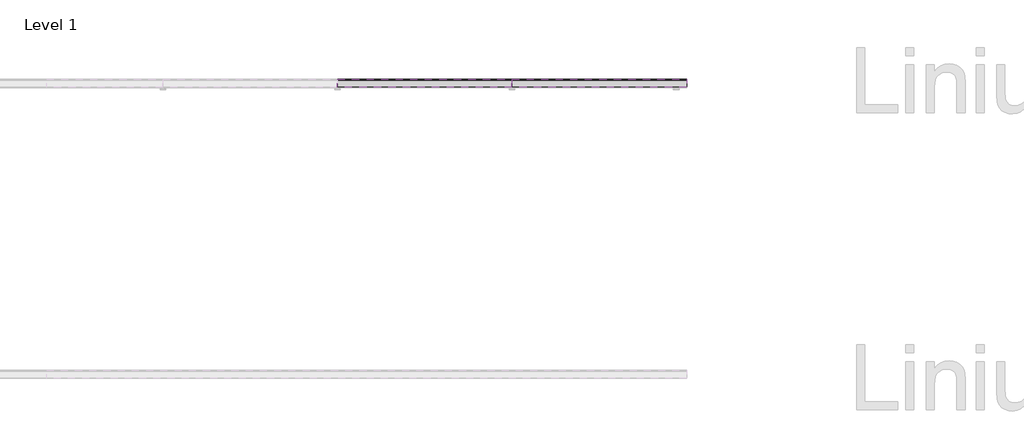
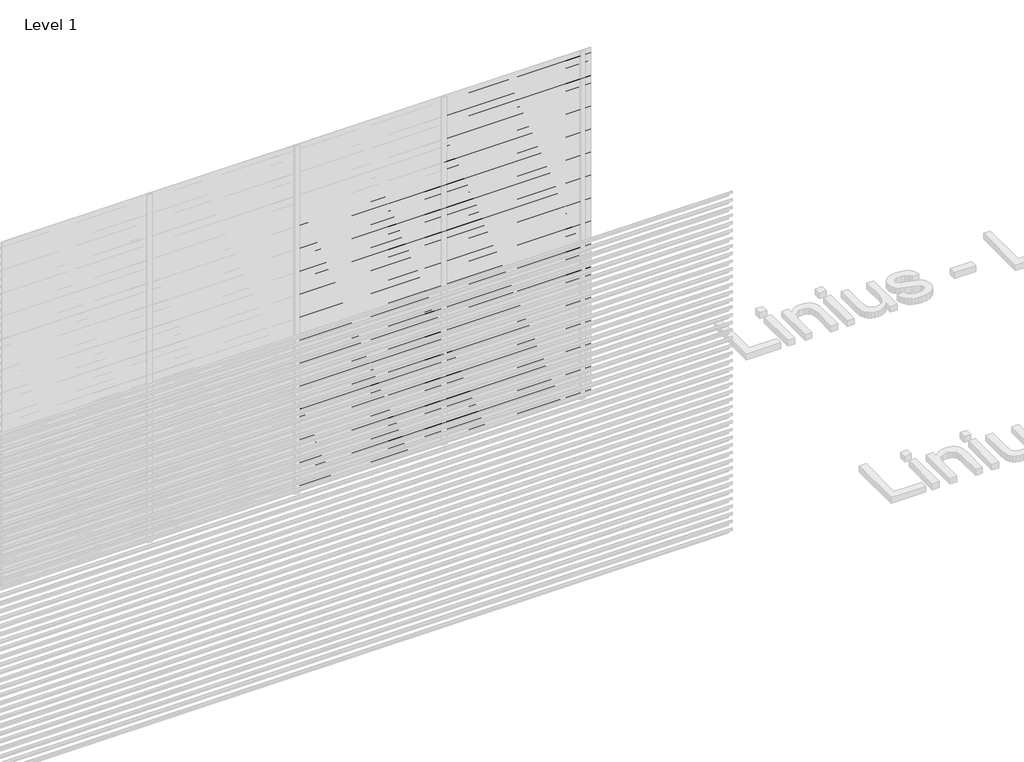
# One storey, part 75 of 540: 80 proxies.
"""IFC4 building model written with IfcOpenShell, lengths in millimetres."""

from ifc_helpers import new_model, si_unit, frame, origin, place, context, project, spatial, polyline, outline, extrude, element, save

model = new_model("IFC4")

# Units and contexts
model_context = context("Model", 3, world=origin())
ifc_project = project(units=[si_unit("LENGTHUNIT", "METRE", prefix="MILLI")], contexts=[model_context])

# Site, building, storey
site = spatial("IfcSite", under=ifc_project)
building = spatial("IfcBuilding", under=site)
storey = spatial("IfcBuildingStorey", under=building, Name="Level 1", Elevation=0.0)

# Proxies
placement = place(None, origin())
element("IfcBuildingElementProxy", 1, Name="Wall Sweeps", at=placement, inside=storey, context=model_context, shape_type="SweptSolid", body=[
    extrude(outline(polyline([(44081.0540136, 2913.5), (44081.0540136, 2893.5), (44079.8040136, 2894.2216933), (44079.8040136, 2912.7872415), (44026.0540136, 2950.3158044), (44026.0540136, 2970.0), (44027.3040136, 2970.0), (44027.3040136, 2951.0285629), (44081.0540136, 2913.5)])), frame((5266.6208095, 0.0, 0.0), z_axis=(1.0, 0.0, 0.0), x_axis=(0.0, 1.0, 0.0)), (0.0, 0.0, 1.0), 1200.0000002),
])
element("IfcBuildingElementProxy", 2, Name="Wall Sweeps", at=placement, inside=storey, context=model_context, shape_type="SweptSolid", body=[
    extrude(outline(polyline([(44081.0540136, 2847.5), (44081.0540136, 2827.5), (44079.8040136, 2828.2216933), (44079.8040136, 2846.7872415), (44026.0540136, 2884.3158044), (44026.0540136, 2904.0), (44027.3040136, 2904.0), (44027.3040136, 2885.0285629), (44081.0540136, 2847.5)])), frame((5266.6208095, 0.0, 0.0), z_axis=(1.0, 0.0, 0.0), x_axis=(0.0, 1.0, 0.0)), (0.0, 0.0, 1.0), 1200.0000002),
])
element("IfcBuildingElementProxy", 3, Name="Wall Sweeps", at=placement, inside=storey, context=model_context, shape_type="SweptSolid", body=[
    extrude(outline(polyline([(44081.0540136, 2781.5), (44081.0540136, 2761.5), (44079.8040136, 2762.2216933), (44079.8040136, 2780.7872415), (44026.0540136, 2818.3158044), (44026.0540136, 2838.0), (44027.3040136, 2838.0), (44027.3040136, 2819.0285629), (44081.0540136, 2781.5)])), frame((5266.6208095, 0.0, 0.0), z_axis=(1.0, 0.0, 0.0), x_axis=(0.0, 1.0, 0.0)), (0.0, 0.0, 1.0), 1200.0000002),
])
element("IfcBuildingElementProxy", 4, Name="Wall Sweeps", at=placement, inside=storey, context=model_context, shape_type="SweptSolid", body=[
    extrude(outline(polyline([(44081.0540136, 2715.5), (44081.0540136, 2695.5), (44079.8040136, 2696.2216933), (44079.8040136, 2714.7872415), (44026.0540136, 2752.3158044), (44026.0540136, 2772.0), (44027.3040136, 2772.0), (44027.3040136, 2753.0285629), (44081.0540136, 2715.5)])), frame((5266.6208095, 0.0, 0.0), z_axis=(1.0, 0.0, 0.0), x_axis=(0.0, 1.0, 0.0)), (0.0, 0.0, 1.0), 1200.0000002),
])
element("IfcBuildingElementProxy", 5, Name="Wall Sweeps", at=placement, inside=storey, context=model_context, shape_type="SweptSolid", body=[
    extrude(outline(polyline([(44081.0540136, 2649.5), (44081.0540136, 2629.5), (44079.8040136, 2630.2216933), (44079.8040136, 2648.7872415), (44026.0540136, 2686.3158044), (44026.0540136, 2706.0), (44027.3040136, 2706.0), (44027.3040136, 2687.0285629), (44081.0540136, 2649.5)])), frame((5266.6208095, 0.0, 0.0), z_axis=(1.0, 0.0, 0.0), x_axis=(0.0, 1.0, 0.0)), (0.0, 0.0, 1.0), 1200.0000002),
])
element("IfcBuildingElementProxy", 6, Name="Wall Sweeps", at=placement, inside=storey, context=model_context, shape_type="SweptSolid", body=[
    extrude(outline(polyline([(44081.0540136, 2583.5), (44081.0540136, 2563.5), (44079.8040136, 2564.2216933), (44079.8040136, 2582.7872415), (44026.0540136, 2620.3158044), (44026.0540136, 2640.0), (44027.3040136, 2640.0), (44027.3040136, 2621.0285629), (44081.0540136, 2583.5)])), frame((5266.6208095, 0.0, 0.0), z_axis=(1.0, 0.0, 0.0), x_axis=(0.0, 1.0, 0.0)), (0.0, 0.0, 1.0), 1200.0000002),
])
element("IfcBuildingElementProxy", 7, Name="Wall Sweeps", at=placement, inside=storey, context=model_context, shape_type="SweptSolid", body=[
    extrude(outline(polyline([(44081.0540136, 2517.5), (44081.0540136, 2497.5), (44079.8040136, 2498.2216933), (44079.8040136, 2516.7872415), (44026.0540136, 2554.3158044), (44026.0540136, 2574.0), (44027.3040136, 2574.0), (44027.3040136, 2555.0285629), (44081.0540136, 2517.5)])), frame((5266.6208095, 0.0, 0.0), z_axis=(1.0, 0.0, 0.0), x_axis=(0.0, 1.0, 0.0)), (0.0, 0.0, 1.0), 1200.0000002),
])
element("IfcBuildingElementProxy", 8, Name="Wall Sweeps", at=placement, inside=storey, context=model_context, shape_type="SweptSolid", body=[
    extrude(outline(polyline([(44081.0540136, 2451.5), (44081.0540136, 2431.5), (44079.8040136, 2432.2216933), (44079.8040136, 2450.7872415), (44026.0540136, 2488.3158044), (44026.0540136, 2508.0), (44027.3040136, 2508.0), (44027.3040136, 2489.0285629), (44081.0540136, 2451.5)])), frame((5266.6208095, 0.0, 0.0), z_axis=(1.0, 0.0, 0.0), x_axis=(0.0, 1.0, 0.0)), (0.0, 0.0, 1.0), 1200.0000002),
])
element("IfcBuildingElementProxy", 9, Name="Wall Sweeps", at=placement, inside=storey, context=model_context, shape_type="SweptSolid", body=[
    extrude(outline(polyline([(44081.0540136, 2385.5), (44081.0540136, 2365.5), (44079.8040136, 2366.2216933), (44079.8040136, 2384.7872415), (44026.0540136, 2422.3158044), (44026.0540136, 2442.0), (44027.3040136, 2442.0), (44027.3040136, 2423.0285629), (44081.0540136, 2385.5)])), frame((5266.6208095, 0.0, 0.0), z_axis=(1.0, 0.0, 0.0), x_axis=(0.0, 1.0, 0.0)), (0.0, 0.0, 1.0), 1200.0000002),
])
element("IfcBuildingElementProxy", 10, Name="Wall Sweeps", at=placement, inside=storey, context=model_context, shape_type="SweptSolid", body=[
    extrude(outline(polyline([(44081.0540136, 2319.5), (44081.0540136, 2299.5), (44079.8040136, 2300.2216933), (44079.8040136, 2318.7872415), (44026.0540136, 2356.3158044), (44026.0540136, 2376.0), (44027.3040136, 2376.0), (44027.3040136, 2357.0285629), (44081.0540136, 2319.5)])), frame((5266.6208095, 0.0, 0.0), z_axis=(1.0, 0.0, 0.0), x_axis=(0.0, 1.0, 0.0)), (0.0, 0.0, 1.0), 1200.0000002),
])
element("IfcBuildingElementProxy", 11, Name="Wall Sweeps", at=placement, inside=storey, context=model_context, shape_type="SweptSolid", body=[
    extrude(outline(polyline([(44081.0540136, 2253.5), (44081.0540136, 2233.5), (44079.8040136, 2234.2216933), (44079.8040136, 2252.7872415), (44026.0540136, 2290.3158044), (44026.0540136, 2310.0), (44027.3040136, 2310.0), (44027.3040136, 2291.0285629), (44081.0540136, 2253.5)])), frame((5266.6208095, 0.0, 0.0), z_axis=(1.0, 0.0, 0.0), x_axis=(0.0, 1.0, 0.0)), (0.0, 0.0, 1.0), 1200.0000002),
])
element("IfcBuildingElementProxy", 12, Name="Wall Sweeps", at=placement, inside=storey, context=model_context, shape_type="SweptSolid", body=[
    extrude(outline(polyline([(44081.0540136, 2187.5), (44081.0540136, 2167.5), (44079.8040136, 2168.2216933), (44079.8040136, 2186.7872415), (44026.0540136, 2224.3158044), (44026.0540136, 2244.0), (44027.3040136, 2244.0), (44027.3040136, 2225.0285629), (44081.0540136, 2187.5)])), frame((5266.6208095, 0.0, 0.0), z_axis=(1.0, 0.0, 0.0), x_axis=(0.0, 1.0, 0.0)), (0.0, 0.0, 1.0), 1200.0000002),
])
element("IfcBuildingElementProxy", 13, Name="Wall Sweeps", at=placement, inside=storey, context=model_context, shape_type="SweptSolid", body=[
    extrude(outline(polyline([(44081.0540136, 2121.5), (44081.0540136, 2101.5), (44079.8040136, 2102.2216933), (44079.8040136, 2120.7872415), (44026.0540136, 2158.3158044), (44026.0540136, 2178.0), (44027.3040136, 2178.0), (44027.3040136, 2159.0285629), (44081.0540136, 2121.5)])), frame((5266.6208095, 0.0, 0.0), z_axis=(1.0, 0.0, 0.0), x_axis=(0.0, 1.0, 0.0)), (0.0, 0.0, 1.0), 1200.0000002),
])
element("IfcBuildingElementProxy", 14, Name="Wall Sweeps", at=placement, inside=storey, context=model_context, shape_type="SweptSolid", body=[
    extrude(outline(polyline([(44081.0540136, 2055.5), (44081.0540136, 2035.5), (44079.8040136, 2036.2216933), (44079.8040136, 2054.7872415), (44026.0540136, 2092.3158044), (44026.0540136, 2112.0), (44027.3040136, 2112.0), (44027.3040136, 2093.0285629), (44081.0540136, 2055.5)])), frame((5266.6208095, 0.0, 0.0), z_axis=(1.0, 0.0, 0.0), x_axis=(0.0, 1.0, 0.0)), (0.0, 0.0, 1.0), 1200.0000002),
])
element("IfcBuildingElementProxy", 15, Name="Wall Sweeps", at=placement, inside=storey, context=model_context, shape_type="SweptSolid", body=[
    extrude(outline(polyline([(44081.0540136, 1989.5), (44081.0540136, 1969.5), (44079.8040136, 1970.2216933), (44079.8040136, 1988.7872415), (44026.0540136, 2026.3158044), (44026.0540136, 2046.0), (44027.3040136, 2046.0), (44027.3040136, 2027.0285629), (44081.0540136, 1989.5)])), frame((5266.6208095, 0.0, 0.0), z_axis=(1.0, 0.0, 0.0), x_axis=(0.0, 1.0, 0.0)), (0.0, 0.0, 1.0), 1200.0000002),
])
element("IfcBuildingElementProxy", 16, Name="Wall Sweeps", at=placement, inside=storey, context=model_context, shape_type="SweptSolid", body=[
    extrude(outline(polyline([(44081.0540136, 1923.5), (44081.0540136, 1903.5), (44079.8040136, 1904.2216933), (44079.8040136, 1922.7872415), (44026.0540136, 1960.3158044), (44026.0540136, 1980.0), (44027.3040136, 1980.0), (44027.3040136, 1961.0285629), (44081.0540136, 1923.5)])), frame((5266.6208095, 0.0, 0.0), z_axis=(1.0, 0.0, 0.0), x_axis=(0.0, 1.0, 0.0)), (0.0, 0.0, 1.0), 1200.0000002),
])
element("IfcBuildingElementProxy", 17, Name="Wall Sweeps", at=placement, inside=storey, context=model_context, shape_type="SweptSolid", body=[
    extrude(outline(polyline([(44081.0540136, 1857.5), (44081.0540136, 1837.5), (44079.8040136, 1838.2216933), (44079.8040136, 1856.7872415), (44026.0540136, 1894.3158044), (44026.0540136, 1914.0), (44027.3040136, 1914.0), (44027.3040136, 1895.0285629), (44081.0540136, 1857.5)])), frame((5266.6208095, 0.0, 0.0), z_axis=(1.0, 0.0, 0.0), x_axis=(0.0, 1.0, 0.0)), (0.0, 0.0, 1.0), 1200.0000002),
])
element("IfcBuildingElementProxy", 18, Name="Wall Sweeps", at=placement, inside=storey, context=model_context, shape_type="SweptSolid", body=[
    extrude(outline(polyline([(44081.0540136, 1791.5), (44081.0540136, 1771.5), (44079.8040136, 1772.2216933), (44079.8040136, 1790.7872415), (44026.0540136, 1828.3158044), (44026.0540136, 1848.0), (44027.3040136, 1848.0), (44027.3040136, 1829.0285629), (44081.0540136, 1791.5)])), frame((5266.6208095, 0.0, 0.0), z_axis=(1.0, 0.0, 0.0), x_axis=(0.0, 1.0, 0.0)), (0.0, 0.0, 1.0), 1200.0000002),
])
element("IfcBuildingElementProxy", 19, Name="Wall Sweeps", at=placement, inside=storey, context=model_context, shape_type="SweptSolid", body=[
    extrude(outline(polyline([(44081.0540136, 1725.5), (44081.0540136, 1705.5), (44079.8040136, 1706.2216933), (44079.8040136, 1724.7872415), (44026.0540136, 1762.3158044), (44026.0540136, 1782.0), (44027.3040136, 1782.0), (44027.3040136, 1763.0285629), (44081.0540136, 1725.5)])), frame((5266.6208095, 0.0, 0.0), z_axis=(1.0, 0.0, 0.0), x_axis=(0.0, 1.0, 0.0)), (0.0, 0.0, 1.0), 1200.0000002),
])
element("IfcBuildingElementProxy", 20, Name="Wall Sweeps", at=placement, inside=storey, context=model_context, shape_type="SweptSolid", body=[
    extrude(outline(polyline([(44081.0540136, 1659.5), (44081.0540136, 1639.5), (44079.8040136, 1640.2216933), (44079.8040136, 1658.7872415), (44026.0540136, 1696.3158044), (44026.0540136, 1716.0), (44027.3040136, 1716.0), (44027.3040136, 1697.0285629), (44081.0540136, 1659.5)])), frame((5266.6208095, 0.0, 0.0), z_axis=(1.0, 0.0, 0.0), x_axis=(0.0, 1.0, 0.0)), (0.0, 0.0, 1.0), 1200.0000002),
])
element("IfcBuildingElementProxy", 21, Name="Wall Sweeps", at=placement, inside=storey, context=model_context, shape_type="SweptSolid", body=[
    extrude(outline(polyline([(44081.0540136, 1593.5), (44081.0540136, 1573.5), (44079.8040136, 1574.2216933), (44079.8040136, 1592.7872415), (44026.0540136, 1630.3158044), (44026.0540136, 1650.0), (44027.3040136, 1650.0), (44027.3040136, 1631.0285629), (44081.0540136, 1593.5)])), frame((5266.6208095, 0.0, 0.0), z_axis=(1.0, 0.0, 0.0), x_axis=(0.0, 1.0, 0.0)), (0.0, 0.0, 1.0), 1200.0000002),
])
element("IfcBuildingElementProxy", 22, Name="Wall Sweeps", at=placement, inside=storey, context=model_context, shape_type="SweptSolid", body=[
    extrude(outline(polyline([(44081.0540136, 1527.5), (44081.0540136, 1507.5), (44079.8040136, 1508.2216933), (44079.8040136, 1526.7872415), (44026.0540136, 1564.3158044), (44026.0540136, 1584.0), (44027.3040136, 1584.0), (44027.3040136, 1565.0285629), (44081.0540136, 1527.5)])), frame((5266.6208095, 0.0, 0.0), z_axis=(1.0, 0.0, 0.0), x_axis=(0.0, 1.0, 0.0)), (0.0, 0.0, 1.0), 1200.0000002),
])
element("IfcBuildingElementProxy", 23, Name="Wall Sweeps", at=placement, inside=storey, context=model_context, shape_type="SweptSolid", body=[
    extrude(outline(polyline([(44081.0540136, 1461.5), (44081.0540136, 1441.5), (44079.8040136, 1442.2216933), (44079.8040136, 1460.7872415), (44026.0540136, 1498.3158044), (44026.0540136, 1518.0), (44027.3040136, 1518.0), (44027.3040136, 1499.0285629), (44081.0540136, 1461.5)])), frame((5266.6208095, 0.0, 0.0), z_axis=(1.0, 0.0, 0.0), x_axis=(0.0, 1.0, 0.0)), (0.0, 0.0, 1.0), 1200.0000002),
])
element("IfcBuildingElementProxy", 24, Name="Wall Sweeps", at=placement, inside=storey, context=model_context, shape_type="SweptSolid", body=[
    extrude(outline(polyline([(44081.0540136, 1395.5), (44081.0540136, 1375.5), (44079.8040136, 1376.2216933), (44079.8040136, 1394.7872415), (44026.0540136, 1432.3158044), (44026.0540136, 1452.0), (44027.3040136, 1452.0), (44027.3040136, 1433.0285629), (44081.0540136, 1395.5)])), frame((5266.6208095, 0.0, 0.0), z_axis=(1.0, 0.0, 0.0), x_axis=(0.0, 1.0, 0.0)), (0.0, 0.0, 1.0), 1200.0000002),
])
element("IfcBuildingElementProxy", 25, Name="Wall Sweeps", at=placement, inside=storey, context=model_context, shape_type="SweptSolid", body=[
    extrude(outline(polyline([(44081.0540136, 1329.5), (44081.0540136, 1309.5), (44079.8040136, 1310.2216933), (44079.8040136, 1328.7872415), (44026.0540136, 1366.3158044), (44026.0540136, 1386.0), (44027.3040136, 1386.0), (44027.3040136, 1367.0285629), (44081.0540136, 1329.5)])), frame((5266.6208095, 0.0, 0.0), z_axis=(1.0, 0.0, 0.0), x_axis=(0.0, 1.0, 0.0)), (0.0, 0.0, 1.0), 1200.0000002),
])
element("IfcBuildingElementProxy", 26, Name="Wall Sweeps", at=placement, inside=storey, context=model_context, shape_type="SweptSolid", body=[
    extrude(outline(polyline([(44081.0540136, 1263.5), (44081.0540136, 1243.5), (44079.8040136, 1244.2216933), (44079.8040136, 1262.7872415), (44026.0540136, 1300.3158044), (44026.0540136, 1320.0), (44027.3040136, 1320.0), (44027.3040136, 1301.0285629), (44081.0540136, 1263.5)])), frame((5266.6208095, 0.0, 0.0), z_axis=(1.0, 0.0, 0.0), x_axis=(0.0, 1.0, 0.0)), (0.0, 0.0, 1.0), 1200.0000002),
])
element("IfcBuildingElementProxy", 27, Name="Wall Sweeps", at=placement, inside=storey, context=model_context, shape_type="SweptSolid", body=[
    extrude(outline(polyline([(44081.0540136, 1197.5), (44081.0540136, 1177.5), (44079.8040136, 1178.2216933), (44079.8040136, 1196.7872415), (44026.0540136, 1234.3158044), (44026.0540136, 1254.0), (44027.3040136, 1254.0), (44027.3040136, 1235.0285629), (44081.0540136, 1197.5)])), frame((5266.6208095, 0.0, 0.0), z_axis=(1.0, 0.0, 0.0), x_axis=(0.0, 1.0, 0.0)), (0.0, 0.0, 1.0), 1200.0000002),
])
element("IfcBuildingElementProxy", 28, Name="Wall Sweeps", at=placement, inside=storey, context=model_context, shape_type="SweptSolid", body=[
    extrude(outline(polyline([(44081.0540136, 1131.5), (44081.0540136, 1111.5), (44079.8040136, 1112.2216933), (44079.8040136, 1130.7872415), (44026.0540136, 1168.3158044), (44026.0540136, 1188.0), (44027.3040136, 1188.0), (44027.3040136, 1169.0285629), (44081.0540136, 1131.5)])), frame((5266.6208095, 0.0, 0.0), z_axis=(1.0, 0.0, 0.0), x_axis=(0.0, 1.0, 0.0)), (0.0, 0.0, 1.0), 1200.0000002),
])
element("IfcBuildingElementProxy", 29, Name="Wall Sweeps", at=placement, inside=storey, context=model_context, shape_type="SweptSolid", body=[
    extrude(outline(polyline([(44081.0540136, 1065.5), (44081.0540136, 1045.5), (44079.8040136, 1046.2216933), (44079.8040136, 1064.7872415), (44026.0540136, 1102.3158044), (44026.0540136, 1122.0), (44027.3040136, 1122.0), (44027.3040136, 1103.0285629), (44081.0540136, 1065.5)])), frame((5266.6208095, 0.0, 0.0), z_axis=(1.0, 0.0, 0.0), x_axis=(0.0, 1.0, 0.0)), (0.0, 0.0, 1.0), 1200.0000002),
])
element("IfcBuildingElementProxy", 30, Name="Wall Sweeps", at=placement, inside=storey, context=model_context, shape_type="SweptSolid", body=[
    extrude(outline(polyline([(44081.0540136, 999.5), (44081.0540136, 979.5), (44079.8040136, 980.2216933), (44079.8040136, 998.7872415), (44026.0540136, 1036.3158044), (44026.0540136, 1056.0), (44027.3040136, 1056.0), (44027.3040136, 1037.0285629), (44081.0540136, 999.5)])), frame((5266.6208095, 0.0, 0.0), z_axis=(1.0, 0.0, 0.0), x_axis=(0.0, 1.0, 0.0)), (0.0, 0.0, 1.0), 1200.0000002),
])
element("IfcBuildingElementProxy", 31, Name="Wall Sweeps", at=placement, inside=storey, context=model_context, shape_type="SweptSolid", body=[
    extrude(outline(polyline([(44081.0540136, 933.5), (44081.0540136, 913.5), (44079.8040136, 914.2216933), (44079.8040136, 932.7872415), (44026.0540136, 970.3158044), (44026.0540136, 990.0), (44027.3040136, 990.0), (44027.3040136, 971.0285629), (44081.0540136, 933.5)])), frame((5266.6208095, 0.0, 0.0), z_axis=(1.0, 0.0, 0.0), x_axis=(0.0, 1.0, 0.0)), (0.0, 0.0, 1.0), 1200.0000002),
])
element("IfcBuildingElementProxy", 32, Name="Wall Sweeps", at=placement, inside=storey, context=model_context, shape_type="SweptSolid", body=[
    extrude(outline(polyline([(44081.0540136, 867.5), (44081.0540136, 847.5), (44079.8040136, 848.2216933), (44079.8040136, 866.7872415), (44026.0540136, 904.3158044), (44026.0540136, 924.0), (44027.3040136, 924.0), (44027.3040136, 905.0285629), (44081.0540136, 867.5)])), frame((5266.6208095, 0.0, 0.0), z_axis=(1.0, 0.0, 0.0), x_axis=(0.0, 1.0, 0.0)), (0.0, 0.0, 1.0), 1200.0000002),
])
element("IfcBuildingElementProxy", 33, Name="Wall Sweeps", at=placement, inside=storey, context=model_context, shape_type="SweptSolid", body=[
    extrude(outline(polyline([(44081.0540136, 801.5), (44081.0540136, 781.5), (44079.8040136, 782.2216933), (44079.8040136, 800.7872415), (44026.0540136, 838.3158044), (44026.0540136, 858.0), (44027.3040136, 858.0), (44027.3040136, 839.0285629), (44081.0540136, 801.5)])), frame((5266.6208095, 0.0, 0.0), z_axis=(1.0, 0.0, 0.0), x_axis=(0.0, 1.0, 0.0)), (0.0, 0.0, 1.0), 1200.0000002),
])
element("IfcBuildingElementProxy", 34, Name="Wall Sweeps", at=placement, inside=storey, context=model_context, shape_type="SweptSolid", body=[
    extrude(outline(polyline([(44081.0540136, 735.5), (44081.0540136, 715.5), (44079.8040136, 716.2216933), (44079.8040136, 734.7872415), (44026.0540136, 772.3158044), (44026.0540136, 792.0), (44027.3040136, 792.0), (44027.3040136, 773.0285629), (44081.0540136, 735.5)])), frame((5266.6208095, 0.0, 0.0), z_axis=(1.0, 0.0, 0.0), x_axis=(0.0, 1.0, 0.0)), (0.0, 0.0, 1.0), 1200.0000002),
])
element("IfcBuildingElementProxy", 35, Name="Wall Sweeps", at=placement, inside=storey, context=model_context, shape_type="SweptSolid", body=[
    extrude(outline(polyline([(44081.0540136, 669.5), (44081.0540136, 649.5), (44079.8040136, 650.2216933), (44079.8040136, 668.7872415), (44026.0540136, 706.3158044), (44026.0540136, 726.0), (44027.3040136, 726.0), (44027.3040136, 707.0285629), (44081.0540136, 669.5)])), frame((5266.6208095, 0.0, 0.0), z_axis=(1.0, 0.0, 0.0), x_axis=(0.0, 1.0, 0.0)), (0.0, 0.0, 1.0), 1200.0000002),
])
element("IfcBuildingElementProxy", 36, Name="Wall Sweeps", at=placement, inside=storey, context=model_context, shape_type="SweptSolid", body=[
    extrude(outline(polyline([(44081.0540136, 603.5), (44081.0540136, 583.5), (44079.8040136, 584.2216933), (44079.8040136, 602.7872415), (44026.0540136, 640.3158044), (44026.0540136, 660.0), (44027.3040136, 660.0), (44027.3040136, 641.0285629), (44081.0540136, 603.5)])), frame((5266.6208095, 0.0, 0.0), z_axis=(1.0, 0.0, 0.0), x_axis=(0.0, 1.0, 0.0)), (0.0, 0.0, 1.0), 1200.0000002),
])
element("IfcBuildingElementProxy", 37, Name="Wall Sweeps", at=placement, inside=storey, context=model_context, shape_type="SweptSolid", body=[
    extrude(outline(polyline([(44081.0540136, 537.5), (44081.0540136, 517.5), (44079.8040136, 518.2216933), (44079.8040136, 536.7872415), (44026.0540136, 574.3158044), (44026.0540136, 594.0), (44027.3040136, 594.0), (44027.3040136, 575.0285629), (44081.0540136, 537.5)])), frame((5266.6208095, 0.0, 0.0), z_axis=(1.0, 0.0, 0.0), x_axis=(0.0, 1.0, 0.0)), (0.0, 0.0, 1.0), 1200.0000002),
])
element("IfcBuildingElementProxy", 38, Name="Wall Sweeps", at=placement, inside=storey, context=model_context, shape_type="SweptSolid", body=[
    extrude(outline(polyline([(44081.0540136, 471.5), (44081.0540136, 451.5), (44079.8040136, 452.2216933), (44079.8040136, 470.7872415), (44026.0540136, 508.3158044), (44026.0540136, 528.0), (44027.3040136, 528.0), (44027.3040136, 509.0285629), (44081.0540136, 471.5)])), frame((5266.6208095, 0.0, 0.0), z_axis=(1.0, 0.0, 0.0), x_axis=(0.0, 1.0, 0.0)), (0.0, 0.0, 1.0), 1200.0000002),
])
element("IfcBuildingElementProxy", 39, Name="Wall Sweeps", at=placement, inside=storey, context=model_context, shape_type="SweptSolid", body=[
    extrude(outline(polyline([(44081.0540136, 405.5), (44081.0540136, 385.5), (44079.8040136, 386.2216933), (44079.8040136, 404.7872415), (44026.0540136, 442.3158044), (44026.0540136, 462.0), (44027.3040136, 462.0), (44027.3040136, 443.0285629), (44081.0540136, 405.5)])), frame((5266.6208095, 0.0, 0.0), z_axis=(1.0, 0.0, 0.0), x_axis=(0.0, 1.0, 0.0)), (0.0, 0.0, 1.0), 1200.0000002),
])
element("IfcBuildingElementProxy", 40, Name="Wall Sweeps", at=placement, inside=storey, context=model_context, shape_type="SweptSolid", body=[
    extrude(outline(polyline([(44081.0540136, 339.5), (44081.0540136, 319.5), (44079.8040136, 320.2216933), (44079.8040136, 338.7872415), (44026.0540136, 376.3158044), (44026.0540136, 396.0), (44027.3040136, 396.0), (44027.3040136, 377.0285629), (44081.0540136, 339.5)])), frame((5266.6208095, 0.0, 0.0), z_axis=(1.0, 0.0, 0.0), x_axis=(0.0, 1.0, 0.0)), (0.0, 0.0, 1.0), 1200.0000002),
])
element("IfcBuildingElementProxy", 41, Name="Wall Sweeps", at=placement, inside=storey, context=model_context, shape_type="SweptSolid", body=[
    extrude(outline(polyline([(44081.0540136, 273.5), (44081.0540136, 253.5), (44079.8040136, 254.2216933), (44079.8040136, 272.7872415), (44026.0540136, 310.3158044), (44026.0540136, 330.0), (44027.3040136, 330.0), (44027.3040136, 311.0285629), (44081.0540136, 273.5)])), frame((5266.6208095, 0.0, 0.0), z_axis=(1.0, 0.0, 0.0), x_axis=(0.0, 1.0, 0.0)), (0.0, 0.0, 1.0), 1200.0000002),
])
element("IfcBuildingElementProxy", 42, Name="Wall Sweeps", at=placement, inside=storey, context=model_context, shape_type="SweptSolid", body=[
    extrude(outline(polyline([(44081.0540136, 207.5), (44081.0540136, 187.5), (44079.8040136, 188.2216933), (44079.8040136, 206.7872415), (44026.0540136, 244.3158044), (44026.0540136, 264.0), (44027.3040136, 264.0), (44027.3040136, 245.0285629), (44081.0540136, 207.5)])), frame((5266.6208095, 0.0, 0.0), z_axis=(1.0, 0.0, 0.0), x_axis=(0.0, 1.0, 0.0)), (0.0, 0.0, 1.0), 1200.0000002),
])
element("IfcBuildingElementProxy", 43, Name="Wall Sweeps", at=placement, inside=storey, context=model_context, shape_type="SweptSolid", body=[
    extrude(outline(polyline([(44081.0540136, 141.5), (44081.0540136, 121.5), (44079.8040136, 122.2216933), (44079.8040136, 140.7872415), (44026.0540136, 178.3158044), (44026.0540136, 198.0), (44027.3040136, 198.0), (44027.3040136, 179.0285629), (44081.0540136, 141.5)])), frame((5266.6208095, 0.0, 0.0), z_axis=(1.0, 0.0, 0.0), x_axis=(0.0, 1.0, 0.0)), (0.0, 0.0, 1.0), 1200.0000002),
])
element("IfcBuildingElementProxy", 44, Name="Wall Sweeps", at=placement, inside=storey, context=model_context, shape_type="SweptSolid", body=[
    extrude(outline(polyline([(44081.0540136, 75.5), (44081.0540136, 55.5), (44079.8040136, 56.2216933), (44079.8040136, 74.7872415), (44026.0540136, 112.3158044), (44026.0540136, 132.0), (44027.3040136, 132.0), (44027.3040136, 113.0285629), (44081.0540136, 75.5)])), frame((5266.6208095, 0.0, 0.0), z_axis=(1.0, 0.0, 0.0), x_axis=(0.0, 1.0, 0.0)), (0.0, 0.0, 1.0), 1200.0000002),
])
element("IfcBuildingElementProxy", 45, Name="Wall Sweeps", at=placement, inside=storey, context=model_context, shape_type="SweptSolid", body=[
    extrude(outline(polyline([(44081.0540136, 9.5), (44081.0540136, -10.5), (44079.8040136, -9.7783067), (44079.8040136, 8.7872415), (44026.0540136, 46.3158044), (44026.0540136, 66.0), (44027.3040136, 66.0), (44027.3040136, 47.0285629), (44081.0540136, 9.5)])), frame((5266.6208095, 0.0, 0.0), z_axis=(1.0, 0.0, 0.0), x_axis=(0.0, 1.0, 0.0)), (0.0, 0.0, 1.0), 1200.0000002),
])
element("IfcBuildingElementProxy", 46, Name="Wall Sweeps", at=placement, inside=storey, context=model_context, shape_type="SweptSolid", body=[
    extrude(outline(polyline([(44081.0540136, 2253.5), (44081.0540136, 2233.5), (44079.8040136, 2234.2216933), (44079.8040136, 2252.7872415), (44026.0540136, 2290.3158044), (44026.0540136, 2310.0), (44027.3040136, 2310.0), (44027.3040136, 2291.0285629), (44081.0540136, 2253.5)])), frame((4066.6208096, 0.0, 0.0), z_axis=(1.0, 0.0, 0.0), x_axis=(0.0, 1.0, 0.0)), (0.0, 0.0, 1.0), 1199.9999999),
])
element("IfcBuildingElementProxy", 47, Name="Wall Sweeps", at=placement, inside=storey, context=model_context, shape_type="SweptSolid", body=[
    extrude(outline(polyline([(44081.0540136, 2187.5), (44081.0540136, 2167.5), (44079.8040136, 2168.2216933), (44079.8040136, 2186.7872415), (44026.0540136, 2224.3158044), (44026.0540136, 2244.0), (44027.3040136, 2244.0), (44027.3040136, 2225.0285629), (44081.0540136, 2187.5)])), frame((4066.6208096, 0.0, 0.0), z_axis=(1.0, 0.0, 0.0), x_axis=(0.0, 1.0, 0.0)), (0.0, 0.0, 1.0), 1199.9999999),
])
element("IfcBuildingElementProxy", 48, Name="Wall Sweeps", at=placement, inside=storey, context=model_context, shape_type="SweptSolid", body=[
    extrude(outline(polyline([(44081.0540136, 2121.5), (44081.0540136, 2101.5), (44079.8040136, 2102.2216933), (44079.8040136, 2120.7872415), (44026.0540136, 2158.3158044), (44026.0540136, 2178.0), (44027.3040136, 2178.0), (44027.3040136, 2159.0285629), (44081.0540136, 2121.5)])), frame((4066.6208096, 0.0, 0.0), z_axis=(1.0, 0.0, 0.0), x_axis=(0.0, 1.0, 0.0)), (0.0, 0.0, 1.0), 1199.9999999),
])
element("IfcBuildingElementProxy", 49, Name="Wall Sweeps", at=placement, inside=storey, context=model_context, shape_type="SweptSolid", body=[
    extrude(outline(polyline([(44081.0540136, 2055.5), (44081.0540136, 2035.5), (44079.8040136, 2036.2216933), (44079.8040136, 2054.7872415), (44026.0540136, 2092.3158044), (44026.0540136, 2112.0), (44027.3040136, 2112.0), (44027.3040136, 2093.0285629), (44081.0540136, 2055.5)])), frame((4066.6208096, 0.0, 0.0), z_axis=(1.0, 0.0, 0.0), x_axis=(0.0, 1.0, 0.0)), (0.0, 0.0, 1.0), 1199.9999999),
])
element("IfcBuildingElementProxy", 50, Name="Wall Sweeps", at=placement, inside=storey, context=model_context, shape_type="SweptSolid", body=[
    extrude(outline(polyline([(44081.0540136, 1989.5), (44081.0540136, 1969.5), (44079.8040136, 1970.2216933), (44079.8040136, 1988.7872415), (44026.0540136, 2026.3158044), (44026.0540136, 2046.0), (44027.3040136, 2046.0), (44027.3040136, 2027.0285629), (44081.0540136, 1989.5)])), frame((4066.6208096, 0.0, 0.0), z_axis=(1.0, 0.0, 0.0), x_axis=(0.0, 1.0, 0.0)), (0.0, 0.0, 1.0), 1199.9999999),
])
element("IfcBuildingElementProxy", 51, Name="Wall Sweeps", at=placement, inside=storey, context=model_context, shape_type="SweptSolid", body=[
    extrude(outline(polyline([(44081.0540136, 1923.5), (44081.0540136, 1903.5), (44079.8040136, 1904.2216933), (44079.8040136, 1922.7872415), (44026.0540136, 1960.3158044), (44026.0540136, 1980.0), (44027.3040136, 1980.0), (44027.3040136, 1961.0285629), (44081.0540136, 1923.5)])), frame((4066.6208096, 0.0, 0.0), z_axis=(1.0, 0.0, 0.0), x_axis=(0.0, 1.0, 0.0)), (0.0, 0.0, 1.0), 1199.9999999),
])
element("IfcBuildingElementProxy", 52, Name="Wall Sweeps", at=placement, inside=storey, context=model_context, shape_type="SweptSolid", body=[
    extrude(outline(polyline([(44081.0540136, 1857.5), (44081.0540136, 1837.5), (44079.8040136, 1838.2216933), (44079.8040136, 1856.7872415), (44026.0540136, 1894.3158044), (44026.0540136, 1914.0), (44027.3040136, 1914.0), (44027.3040136, 1895.0285629), (44081.0540136, 1857.5)])), frame((4066.6208096, 0.0, 0.0), z_axis=(1.0, 0.0, 0.0), x_axis=(0.0, 1.0, 0.0)), (0.0, 0.0, 1.0), 1199.9999999),
])
element("IfcBuildingElementProxy", 53, Name="Wall Sweeps", at=placement, inside=storey, context=model_context, shape_type="SweptSolid", body=[
    extrude(outline(polyline([(44081.0540136, 1791.5), (44081.0540136, 1771.5), (44079.8040136, 1772.2216933), (44079.8040136, 1790.7872415), (44026.0540136, 1828.3158044), (44026.0540136, 1848.0), (44027.3040136, 1848.0), (44027.3040136, 1829.0285629), (44081.0540136, 1791.5)])), frame((4066.6208096, 0.0, 0.0), z_axis=(1.0, 0.0, 0.0), x_axis=(0.0, 1.0, 0.0)), (0.0, 0.0, 1.0), 1199.9999999),
])
element("IfcBuildingElementProxy", 54, Name="Wall Sweeps", at=placement, inside=storey, context=model_context, shape_type="SweptSolid", body=[
    extrude(outline(polyline([(44081.0540136, 1725.5), (44081.0540136, 1705.5), (44079.8040136, 1706.2216933), (44079.8040136, 1724.7872415), (44026.0540136, 1762.3158044), (44026.0540136, 1782.0), (44027.3040136, 1782.0), (44027.3040136, 1763.0285629), (44081.0540136, 1725.5)])), frame((4066.6208096, 0.0, 0.0), z_axis=(1.0, 0.0, 0.0), x_axis=(0.0, 1.0, 0.0)), (0.0, 0.0, 1.0), 1199.9999999),
])
element("IfcBuildingElementProxy", 55, Name="Wall Sweeps", at=placement, inside=storey, context=model_context, shape_type="SweptSolid", body=[
    extrude(outline(polyline([(44081.0540136, 1659.5), (44081.0540136, 1639.5), (44079.8040136, 1640.2216933), (44079.8040136, 1658.7872415), (44026.0540136, 1696.3158044), (44026.0540136, 1716.0), (44027.3040136, 1716.0), (44027.3040136, 1697.0285629), (44081.0540136, 1659.5)])), frame((4066.6208096, 0.0, 0.0), z_axis=(1.0, 0.0, 0.0), x_axis=(0.0, 1.0, 0.0)), (0.0, 0.0, 1.0), 1199.9999999),
])
element("IfcBuildingElementProxy", 56, Name="Wall Sweeps", at=placement, inside=storey, context=model_context, shape_type="SweptSolid", body=[
    extrude(outline(polyline([(44081.0540136, 1593.5), (44081.0540136, 1573.5), (44079.8040136, 1574.2216933), (44079.8040136, 1592.7872415), (44026.0540136, 1630.3158044), (44026.0540136, 1650.0), (44027.3040136, 1650.0), (44027.3040136, 1631.0285629), (44081.0540136, 1593.5)])), frame((4066.6208096, 0.0, 0.0), z_axis=(1.0, 0.0, 0.0), x_axis=(0.0, 1.0, 0.0)), (0.0, 0.0, 1.0), 1199.9999999),
])
element("IfcBuildingElementProxy", 57, Name="Wall Sweeps", at=placement, inside=storey, context=model_context, shape_type="SweptSolid", body=[
    extrude(outline(polyline([(44081.0540136, 1527.5), (44081.0540136, 1507.5), (44079.8040136, 1508.2216933), (44079.8040136, 1526.7872415), (44026.0540136, 1564.3158044), (44026.0540136, 1584.0), (44027.3040136, 1584.0), (44027.3040136, 1565.0285629), (44081.0540136, 1527.5)])), frame((4066.6208096, 0.0, 0.0), z_axis=(1.0, 0.0, 0.0), x_axis=(0.0, 1.0, 0.0)), (0.0, 0.0, 1.0), 1199.9999999),
])
element("IfcBuildingElementProxy", 58, Name="Wall Sweeps", at=placement, inside=storey, context=model_context, shape_type="SweptSolid", body=[
    extrude(outline(polyline([(44081.0540136, 1461.5), (44081.0540136, 1441.5), (44079.8040136, 1442.2216933), (44079.8040136, 1460.7872415), (44026.0540136, 1498.3158044), (44026.0540136, 1518.0), (44027.3040136, 1518.0), (44027.3040136, 1499.0285629), (44081.0540136, 1461.5)])), frame((4066.6208096, 0.0, 0.0), z_axis=(1.0, 0.0, 0.0), x_axis=(0.0, 1.0, 0.0)), (0.0, 0.0, 1.0), 1199.9999999),
])
element("IfcBuildingElementProxy", 59, Name="Wall Sweeps", at=placement, inside=storey, context=model_context, shape_type="SweptSolid", body=[
    extrude(outline(polyline([(44081.0540136, 1395.5), (44081.0540136, 1375.5), (44079.8040136, 1376.2216933), (44079.8040136, 1394.7872415), (44026.0540136, 1432.3158044), (44026.0540136, 1452.0), (44027.3040136, 1452.0), (44027.3040136, 1433.0285629), (44081.0540136, 1395.5)])), frame((4066.6208096, 0.0, 0.0), z_axis=(1.0, 0.0, 0.0), x_axis=(0.0, 1.0, 0.0)), (0.0, 0.0, 1.0), 1199.9999999),
])
element("IfcBuildingElementProxy", 60, Name="Wall Sweeps", at=placement, inside=storey, context=model_context, shape_type="SweptSolid", body=[
    extrude(outline(polyline([(44081.0540136, 1329.5), (44081.0540136, 1309.5), (44079.8040136, 1310.2216933), (44079.8040136, 1328.7872415), (44026.0540136, 1366.3158044), (44026.0540136, 1386.0), (44027.3040136, 1386.0), (44027.3040136, 1367.0285629), (44081.0540136, 1329.5)])), frame((4066.6208096, 0.0, 0.0), z_axis=(1.0, 0.0, 0.0), x_axis=(0.0, 1.0, 0.0)), (0.0, 0.0, 1.0), 1199.9999999),
])
element("IfcBuildingElementProxy", 61, Name="Wall Sweeps", at=placement, inside=storey, context=model_context, shape_type="SweptSolid", body=[
    extrude(outline(polyline([(44081.0540136, 1263.5), (44081.0540136, 1243.5), (44079.8040136, 1244.2216933), (44079.8040136, 1262.7872415), (44026.0540136, 1300.3158044), (44026.0540136, 1320.0), (44027.3040136, 1320.0), (44027.3040136, 1301.0285629), (44081.0540136, 1263.5)])), frame((4066.6208096, 0.0, 0.0), z_axis=(1.0, 0.0, 0.0), x_axis=(0.0, 1.0, 0.0)), (0.0, 0.0, 1.0), 1199.9999999),
])
element("IfcBuildingElementProxy", 62, Name="Wall Sweeps", at=placement, inside=storey, context=model_context, shape_type="SweptSolid", body=[
    extrude(outline(polyline([(44081.0540136, 1197.5), (44081.0540136, 1177.5), (44079.8040136, 1178.2216933), (44079.8040136, 1196.7872415), (44026.0540136, 1234.3158044), (44026.0540136, 1254.0), (44027.3040136, 1254.0), (44027.3040136, 1235.0285629), (44081.0540136, 1197.5)])), frame((4066.6208096, 0.0, 0.0), z_axis=(1.0, 0.0, 0.0), x_axis=(0.0, 1.0, 0.0)), (0.0, 0.0, 1.0), 1199.9999999),
])
element("IfcBuildingElementProxy", 63, Name="Wall Sweeps", at=placement, inside=storey, context=model_context, shape_type="SweptSolid", body=[
    extrude(outline(polyline([(44081.0540136, 1131.5), (44081.0540136, 1111.5), (44079.8040136, 1112.2216933), (44079.8040136, 1130.7872415), (44026.0540136, 1168.3158044), (44026.0540136, 1188.0), (44027.3040136, 1188.0), (44027.3040136, 1169.0285629), (44081.0540136, 1131.5)])), frame((4066.6208096, 0.0, 0.0), z_axis=(1.0, 0.0, 0.0), x_axis=(0.0, 1.0, 0.0)), (0.0, 0.0, 1.0), 1199.9999999),
])
element("IfcBuildingElementProxy", 64, Name="Wall Sweeps", at=placement, inside=storey, context=model_context, shape_type="SweptSolid", body=[
    extrude(outline(polyline([(44081.0540136, 1065.5), (44081.0540136, 1045.5), (44079.8040136, 1046.2216933), (44079.8040136, 1064.7872415), (44026.0540136, 1102.3158044), (44026.0540136, 1122.0), (44027.3040136, 1122.0), (44027.3040136, 1103.0285629), (44081.0540136, 1065.5)])), frame((4066.6208096, 0.0, 0.0), z_axis=(1.0, 0.0, 0.0), x_axis=(0.0, 1.0, 0.0)), (0.0, 0.0, 1.0), 1199.9999999),
])
element("IfcBuildingElementProxy", 65, Name="Wall Sweeps", at=placement, inside=storey, context=model_context, shape_type="SweptSolid", body=[
    extrude(outline(polyline([(44081.0540136, 999.5), (44081.0540136, 979.5), (44079.8040136, 980.2216933), (44079.8040136, 998.7872415), (44026.0540136, 1036.3158044), (44026.0540136, 1056.0), (44027.3040136, 1056.0), (44027.3040136, 1037.0285629), (44081.0540136, 999.5)])), frame((4066.6208096, 0.0, 0.0), z_axis=(1.0, 0.0, 0.0), x_axis=(0.0, 1.0, 0.0)), (0.0, 0.0, 1.0), 1199.9999999),
])
element("IfcBuildingElementProxy", 66, Name="Wall Sweeps", at=placement, inside=storey, context=model_context, shape_type="SweptSolid", body=[
    extrude(outline(polyline([(44081.0540136, 933.5), (44081.0540136, 913.5), (44079.8040136, 914.2216933), (44079.8040136, 932.7872415), (44026.0540136, 970.3158044), (44026.0540136, 990.0), (44027.3040136, 990.0), (44027.3040136, 971.0285629), (44081.0540136, 933.5)])), frame((4066.6208096, 0.0, 0.0), z_axis=(1.0, 0.0, 0.0), x_axis=(0.0, 1.0, 0.0)), (0.0, 0.0, 1.0), 1199.9999999),
])
element("IfcBuildingElementProxy", 67, Name="Wall Sweeps", at=placement, inside=storey, context=model_context, shape_type="SweptSolid", body=[
    extrude(outline(polyline([(44081.0540136, 867.5), (44081.0540136, 847.5), (44079.8040136, 848.2216933), (44079.8040136, 866.7872415), (44026.0540136, 904.3158044), (44026.0540136, 924.0), (44027.3040136, 924.0), (44027.3040136, 905.0285629), (44081.0540136, 867.5)])), frame((4066.6208096, 0.0, 0.0), z_axis=(1.0, 0.0, 0.0), x_axis=(0.0, 1.0, 0.0)), (0.0, 0.0, 1.0), 1199.9999999),
])
element("IfcBuildingElementProxy", 68, Name="Wall Sweeps", at=placement, inside=storey, context=model_context, shape_type="SweptSolid", body=[
    extrude(outline(polyline([(44081.0540136, 801.5), (44081.0540136, 781.5), (44079.8040136, 782.2216933), (44079.8040136, 800.7872415), (44026.0540136, 838.3158044), (44026.0540136, 858.0), (44027.3040136, 858.0), (44027.3040136, 839.0285629), (44081.0540136, 801.5)])), frame((4066.6208096, 0.0, 0.0), z_axis=(1.0, 0.0, 0.0), x_axis=(0.0, 1.0, 0.0)), (0.0, 0.0, 1.0), 1199.9999999),
])
element("IfcBuildingElementProxy", 69, Name="Wall Sweeps", at=placement, inside=storey, context=model_context, shape_type="SweptSolid", body=[
    extrude(outline(polyline([(44081.0540136, 735.5), (44081.0540136, 715.5), (44079.8040136, 716.2216933), (44079.8040136, 734.7872415), (44026.0540136, 772.3158044), (44026.0540136, 792.0), (44027.3040136, 792.0), (44027.3040136, 773.0285629), (44081.0540136, 735.5)])), frame((4066.6208096, 0.0, 0.0), z_axis=(1.0, 0.0, 0.0), x_axis=(0.0, 1.0, 0.0)), (0.0, 0.0, 1.0), 1199.9999999),
])
element("IfcBuildingElementProxy", 70, Name="Wall Sweeps", at=placement, inside=storey, context=model_context, shape_type="SweptSolid", body=[
    extrude(outline(polyline([(44081.0540136, 669.5), (44081.0540136, 649.5), (44079.8040136, 650.2216933), (44079.8040136, 668.7872415), (44026.0540136, 706.3158044), (44026.0540136, 726.0), (44027.3040136, 726.0), (44027.3040136, 707.0285629), (44081.0540136, 669.5)])), frame((4066.6208096, 0.0, 0.0), z_axis=(1.0, 0.0, 0.0), x_axis=(0.0, 1.0, 0.0)), (0.0, 0.0, 1.0), 1199.9999999),
])
element("IfcBuildingElementProxy", 71, Name="Wall Sweeps", at=placement, inside=storey, context=model_context, shape_type="SweptSolid", body=[
    extrude(outline(polyline([(44081.0540136, 603.5), (44081.0540136, 583.5), (44079.8040136, 584.2216933), (44079.8040136, 602.7872415), (44026.0540136, 640.3158044), (44026.0540136, 660.0), (44027.3040136, 660.0), (44027.3040136, 641.0285629), (44081.0540136, 603.5)])), frame((4066.6208096, 0.0, 0.0), z_axis=(1.0, 0.0, 0.0), x_axis=(0.0, 1.0, 0.0)), (0.0, 0.0, 1.0), 1199.9999999),
])
element("IfcBuildingElementProxy", 72, Name="Wall Sweeps", at=placement, inside=storey, context=model_context, shape_type="SweptSolid", body=[
    extrude(outline(polyline([(44081.0540136, 537.5), (44081.0540136, 517.5), (44079.8040136, 518.2216933), (44079.8040136, 536.7872415), (44026.0540136, 574.3158044), (44026.0540136, 594.0), (44027.3040136, 594.0), (44027.3040136, 575.0285629), (44081.0540136, 537.5)])), frame((4066.6208096, 0.0, 0.0), z_axis=(1.0, 0.0, 0.0), x_axis=(0.0, 1.0, 0.0)), (0.0, 0.0, 1.0), 1199.9999999),
])
element("IfcBuildingElementProxy", 73, Name="Wall Sweeps", at=placement, inside=storey, context=model_context, shape_type="SweptSolid", body=[
    extrude(outline(polyline([(44081.0540136, 471.5), (44081.0540136, 451.5), (44079.8040136, 452.2216933), (44079.8040136, 470.7872415), (44026.0540136, 508.3158044), (44026.0540136, 528.0), (44027.3040136, 528.0), (44027.3040136, 509.0285629), (44081.0540136, 471.5)])), frame((4066.6208096, 0.0, 0.0), z_axis=(1.0, 0.0, 0.0), x_axis=(0.0, 1.0, 0.0)), (0.0, 0.0, 1.0), 1199.9999999),
])
element("IfcBuildingElementProxy", 74, Name="Wall Sweeps", at=placement, inside=storey, context=model_context, shape_type="SweptSolid", body=[
    extrude(outline(polyline([(44081.0540136, 405.5), (44081.0540136, 385.5), (44079.8040136, 386.2216933), (44079.8040136, 404.7872415), (44026.0540136, 442.3158044), (44026.0540136, 462.0), (44027.3040136, 462.0), (44027.3040136, 443.0285629), (44081.0540136, 405.5)])), frame((4066.6208096, 0.0, 0.0), z_axis=(1.0, 0.0, 0.0), x_axis=(0.0, 1.0, 0.0)), (0.0, 0.0, 1.0), 1199.9999999),
])
element("IfcBuildingElementProxy", 75, Name="Wall Sweeps", at=placement, inside=storey, context=model_context, shape_type="SweptSolid", body=[
    extrude(outline(polyline([(44081.0540136, 339.5), (44081.0540136, 319.5), (44079.8040136, 320.2216933), (44079.8040136, 338.7872415), (44026.0540136, 376.3158044), (44026.0540136, 396.0), (44027.3040136, 396.0), (44027.3040136, 377.0285629), (44081.0540136, 339.5)])), frame((4066.6208096, 0.0, 0.0), z_axis=(1.0, 0.0, 0.0), x_axis=(0.0, 1.0, 0.0)), (0.0, 0.0, 1.0), 1199.9999999),
])
element("IfcBuildingElementProxy", 76, Name="Wall Sweeps", at=placement, inside=storey, context=model_context, shape_type="SweptSolid", body=[
    extrude(outline(polyline([(44081.0540136, 273.5), (44081.0540136, 253.5), (44079.8040136, 254.2216933), (44079.8040136, 272.7872415), (44026.0540136, 310.3158044), (44026.0540136, 330.0), (44027.3040136, 330.0), (44027.3040136, 311.0285629), (44081.0540136, 273.5)])), frame((4066.6208096, 0.0, 0.0), z_axis=(1.0, 0.0, 0.0), x_axis=(0.0, 1.0, 0.0)), (0.0, 0.0, 1.0), 1199.9999999),
])
element("IfcBuildingElementProxy", 77, Name="Wall Sweeps", at=placement, inside=storey, context=model_context, shape_type="SweptSolid", body=[
    extrude(outline(polyline([(44081.0540136, 207.5), (44081.0540136, 187.5), (44079.8040136, 188.2216933), (44079.8040136, 206.7872415), (44026.0540136, 244.3158044), (44026.0540136, 264.0), (44027.3040136, 264.0), (44027.3040136, 245.0285629), (44081.0540136, 207.5)])), frame((4066.6208096, 0.0, 0.0), z_axis=(1.0, 0.0, 0.0), x_axis=(0.0, 1.0, 0.0)), (0.0, 0.0, 1.0), 1199.9999999),
])
element("IfcBuildingElementProxy", 78, Name="Wall Sweeps", at=placement, inside=storey, context=model_context, shape_type="SweptSolid", body=[
    extrude(outline(polyline([(44081.0540136, 141.5), (44081.0540136, 121.5), (44079.8040136, 122.2216933), (44079.8040136, 140.7872415), (44026.0540136, 178.3158044), (44026.0540136, 198.0), (44027.3040136, 198.0), (44027.3040136, 179.0285629), (44081.0540136, 141.5)])), frame((4066.6208096, 0.0, 0.0), z_axis=(1.0, 0.0, 0.0), x_axis=(0.0, 1.0, 0.0)), (0.0, 0.0, 1.0), 1199.9999999),
])
element("IfcBuildingElementProxy", 79, Name="Wall Sweeps", at=placement, inside=storey, context=model_context, shape_type="SweptSolid", body=[
    extrude(outline(polyline([(44081.0540136, 75.5), (44081.0540136, 55.5), (44079.8040136, 56.2216933), (44079.8040136, 74.7872415), (44026.0540136, 112.3158044), (44026.0540136, 132.0), (44027.3040136, 132.0), (44027.3040136, 113.0285629), (44081.0540136, 75.5)])), frame((4066.6208096, 0.0, 0.0), z_axis=(1.0, 0.0, 0.0), x_axis=(0.0, 1.0, 0.0)), (0.0, 0.0, 1.0), 1199.9999999),
])
element("IfcBuildingElementProxy", 80, Name="Wall Sweeps", at=placement, inside=storey, context=model_context, shape_type="SweptSolid", body=[
    extrude(outline(polyline([(44081.0540136, 9.5), (44081.0540136, -10.5), (44079.8040136, -9.7783067), (44079.8040136, 8.7872415), (44026.0540136, 46.3158044), (44026.0540136, 66.0), (44027.3040136, 66.0), (44027.3040136, 47.0285629), (44081.0540136, 9.5)])), frame((4066.6208096, 0.0, 0.0), z_axis=(1.0, 0.0, 0.0), x_axis=(0.0, 1.0, 0.0)), (0.0, 0.0, 1.0), 1199.9999999),
])

save(model, "model.ifc")
